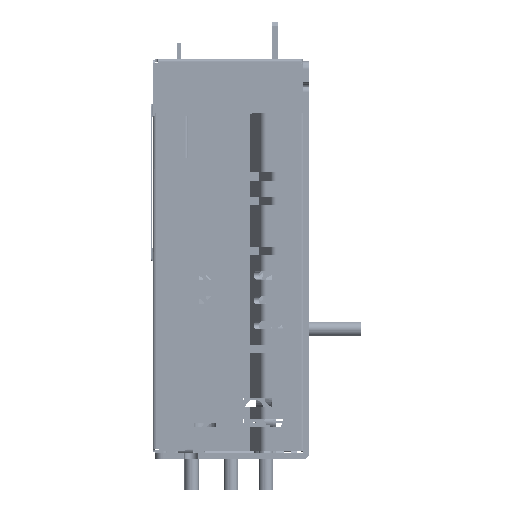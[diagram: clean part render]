
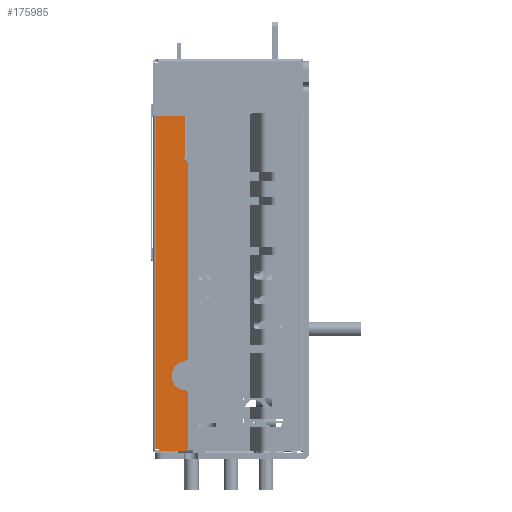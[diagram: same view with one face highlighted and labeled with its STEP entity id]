
A CAD part, left-side view. The second image highlights one B-rep face of the part: STEP entity #175985.
In plain terms, the highlighted planar face has unit normal (-1, 0, 0) as drawn and (0, 1, 0) by its records, which use the part's own axes.
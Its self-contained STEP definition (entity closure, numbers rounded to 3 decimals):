
#149337=DIRECTION('',(1.,0.,0.));
#149338=VECTOR('',#149337,80.7);
#149339=CARTESIAN_POINT('',(0.3,134.2,0.9));
#149340=LINE('',#149339,#149338);
#149432=CARTESIAN_POINT('',(13.628,134.2,7.6));
#149433=DIRECTION('',(0.,1.,0.));
#149434=DIRECTION('',(0.,0.,1.));
#149435=AXIS2_PLACEMENT_3D('',#149432,#149433,#149434);
#149437=CARTESIAN_POINT('',(0.9,134.2,7.6));
#149438=DIRECTION('',(0.,1.,0.));
#149439=DIRECTION('',(-1.,0.,0.));
#149440=AXIS2_PLACEMENT_3D('',#149437,#149438,#149439);
#149442=DIRECTION('',(0.,0.,1.));
#149443=VECTOR('',#149442,5.4);
#149444=CARTESIAN_POINT('',(-0.1,134.2,2.2));
#149445=LINE('',#149444,#149443);
#149446=CARTESIAN_POINT('',(0.9,134.2,2.2));
#149447=DIRECTION('',(0.,1.,0.));
#149448=DIRECTION('',(-0.6,0.,
-0.8));
#149449=AXIS2_PLACEMENT_3D('',#149446,#149447,#149448);
#149451=DIRECTION('',(0.,0.,-1.));
#149452=VECTOR('',#149451,0.5);
#149453=CARTESIAN_POINT('',(0.3,134.2,1.4));
#149454=LINE('',#149453,#149452);
#149455=DIRECTION('',(0.,0.,1.));
#149456=VECTOR('',#149455,7.);
#149457=CARTESIAN_POINT('',(81.,134.2,0.9));
#149458=LINE('',#149457,#149456);
#149459=CARTESIAN_POINT('',(70.7,134.2,7.9));
#149460=DIRECTION('',(0.,-1.,0.));
#149461=DIRECTION('',(-0.973,0.,-0.231));
#149462=AXIS2_PLACEMENT_3D('',#149459,#149460,#149461);
#149464=CARTESIAN_POINT('',(69.435,134.2,7.6));
#149465=DIRECTION('',(0.,1.,0.));
#149466=DIRECTION('',(0.,0.,1.));
#149467=AXIS2_PLACEMENT_3D('',#149464,#149465,#149466);
#149469=DIRECTION('',(-1.,0.,0.));
#149470=VECTOR('',#149469,46.863);
#149471=CARTESIAN_POINT('',(69.435,134.2,8.6));
#149472=LINE('',#149471,#149470);
#149473=CARTESIAN_POINT('',(22.572,134.2,7.6));
#149474=DIRECTION('',(0.,1.,0.));
#149475=DIRECTION('',(-0.994,0.,0.111));
#149476=AXIS2_PLACEMENT_3D('',#149473,#149474,#149475);
#149478=CARTESIAN_POINT('',(18.1,134.2,8.1));
#149479=DIRECTION('',(0.,1.,0.));
#149480=DIRECTION('',(0.994,0.,-0.111));
#149481=AXIS2_PLACEMENT_3D('',#149478,#149479,#149480);
#149491=DIRECTION('',(1.,0.,0.));
#149492=VECTOR('',#149491,12.728);
#149493=CARTESIAN_POINT('',(0.9,134.2,8.6));
#149494=LINE('',#149493,#149492);
#149516=DIRECTION('',(-1.,0.,0.));
#149517=VECTOR('',#149516,10.);
#149518=CARTESIAN_POINT('',(81.,134.2,7.9));
#149519=LINE('',#149518,#149517);
#156287=CARTESIAN_POINT('',(0.3,134.2,0.9));
#156288=CARTESIAN_POINT('',(81.,134.2,0.9));
#156289=VERTEX_POINT('',#156287);
#156290=VERTEX_POINT('',#156288);
#158885=CARTESIAN_POINT('',(81.,134.2,7.9));
#158886=VERTEX_POINT('',#158885);
#158893=CARTESIAN_POINT('',(71.,134.2,7.9));
#158895=VERTEX_POINT('',#158893);
#159133=CARTESIAN_POINT('',(13.628,134.2,8.6));
#159134=CARTESIAN_POINT('',(14.622,134.2,7.711));
#159135=VERTEX_POINT('',#159133);
#159136=VERTEX_POINT('',#159134);
#159141=CARTESIAN_POINT('',(0.3,134.2,1.4));
#159142=CARTESIAN_POINT('',(-0.1,134.2,2.2));
#159143=VERTEX_POINT('',#159141);
#159144=VERTEX_POINT('',#159142);
#159149=CARTESIAN_POINT('',(-0.1,134.2,7.6));
#159150=CARTESIAN_POINT('',(0.9,134.2,8.6));
#159151=VERTEX_POINT('',#159149);
#159152=VERTEX_POINT('',#159150);
#159159=CARTESIAN_POINT('',(70.408,134.2,7.831));
#159160=VERTEX_POINT('',#159159);
#159161=CARTESIAN_POINT('',(21.578,134.2,7.711));
#159162=VERTEX_POINT('',#159161);
#159163=CARTESIAN_POINT('',(69.435,134.2,8.6));
#159164=CARTESIAN_POINT('',(22.572,134.2,8.6));
#159165=VERTEX_POINT('',#159163);
#159166=VERTEX_POINT('',#159164);
#175952=CARTESIAN_POINT('',(71.666,134.2,0.6));
#175953=DIRECTION('',(0.,-1.,0.));
#175954=DIRECTION('',(-1.,0.,0.));
#175955=AXIS2_PLACEMENT_3D('',#175952,#175953,#175954);
#175956=PLANE('',#175955);
#175957=ORIENTED_EDGE('',*,*,#175942,.F.);
#175959=ORIENTED_EDGE('',*,*,#175958,.F.);
#175961=ORIENTED_EDGE('',*,*,#175960,.F.);
#175963=ORIENTED_EDGE('',*,*,#175962,.F.);
#175965=ORIENTED_EDGE('',*,*,#175964,.F.);
#175967=ORIENTED_EDGE('',*,*,#175966,.T.);
#175968=ORIENTED_EDGE('',*,*,#175864,.T.);
#175970=ORIENTED_EDGE('',*,*,#175969,.T.);
#175972=ORIENTED_EDGE('',*,*,#175971,.T.);
#175974=ORIENTED_EDGE('',*,*,#175973,.F.);
#175976=ORIENTED_EDGE('',*,*,#175975,.F.);
#175978=ORIENTED_EDGE('',*,*,#175977,.T.);
#175980=ORIENTED_EDGE('',*,*,#175979,.F.);
#175982=ORIENTED_EDGE('',*,*,#175981,.T.);
#175983=EDGE_LOOP('',(#175957,#175959,#175961,#175963,#175965,#175967,#175968,
#175970,#175972,#175974,#175976,#175978,#175980,#175982));
#175984=FACE_OUTER_BOUND('',#175983,.F.);
#175985=ADVANCED_FACE('',(#175984),#175956,.F.);
#149436=CIRCLE('',#149435,1.);
#149441=CIRCLE('',#149440,1.);
#149450=CIRCLE('',#149449,1.);
#149463=CIRCLE('',#149462,0.3);
#149468=CIRCLE('',#149467,1.);
#149477=CIRCLE('',#149476,1.);
#149482=CIRCLE('',#149481,3.5);
#175864=EDGE_CURVE('',#156289,#156290,#149340,.T.);
#175942=EDGE_CURVE('',#159135,#159136,#149436,.T.);
#175958=EDGE_CURVE('',#159152,#159135,#149494,.T.);
#175960=EDGE_CURVE('',#159151,#159152,#149441,.T.);
#175962=EDGE_CURVE('',#159144,#159151,#149445,.T.);
#175964=EDGE_CURVE('',#159143,#159144,#149450,.T.);
#175966=EDGE_CURVE('',#159143,#156289,#149454,.T.);
#175969=EDGE_CURVE('',#156290,#158886,#149458,.T.);
#175971=EDGE_CURVE('',#158886,#158895,#149519,.T.);
#175973=EDGE_CURVE('',#159160,#158895,#149463,.T.);
#175975=EDGE_CURVE('',#159165,#159160,#149468,.T.);
#175977=EDGE_CURVE('',#159165,#159166,#149472,.T.);
#175979=EDGE_CURVE('',#159162,#159166,#149477,.T.);
#175981=EDGE_CURVE('',#159162,#159136,#149482,.T.);
